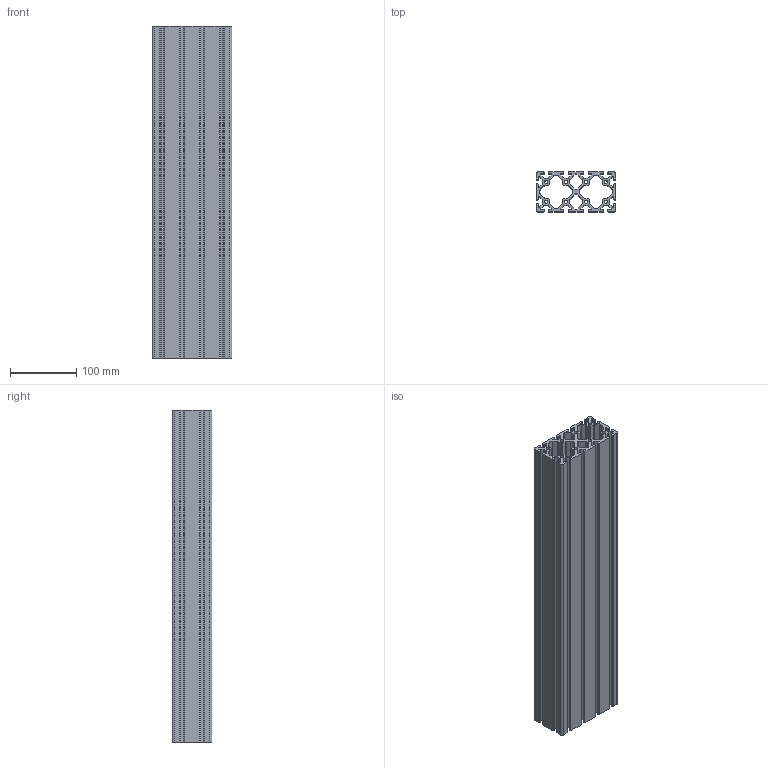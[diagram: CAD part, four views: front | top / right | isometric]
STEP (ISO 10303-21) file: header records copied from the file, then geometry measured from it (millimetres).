
FILE_DESCRIPTION (( 'STEP AP203' ), '1' );
FILE_NAME ('PP3050-500-Rollco.step', '2026-05-04T07:38:14', ( '' ), ( '' ), 'SwSTEP 2.0', 'SolidWorks 2014', '' );
FILE_SCHEMA (( 'CONFIG_CONTROL_DESIGN' ));
Length unit declared in the file: millimetre
Products named in the file (1): PP3050-500-Rollco
Bounding box: 120 x 60 x 500 mm (x, y, z)
Volume: 1251655.9 mm3; surface area: 653424.5 mm2
Topology: 1 solids, 1 shells, 332 faces, 990 edges, 660 vertices
Faces by surface type: cylinder 178, plane 154
Entity records: 11395 total; most frequent: DIRECTION 2012, CARTESIAN_POINT 1983, ORIENTED_EDGE 1980, EDGE_CURVE 990, AXIS2_PLACEMENT_3D 689, VERTEX_POINT 660, LINE 634, VECTOR 634
